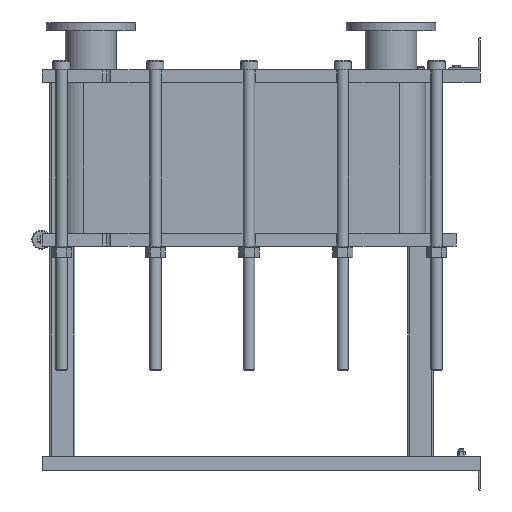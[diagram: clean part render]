
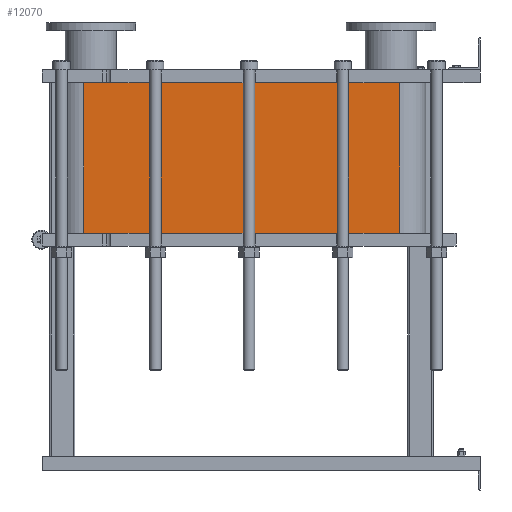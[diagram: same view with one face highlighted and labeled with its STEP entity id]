
A CAD part, left-side view. The second image highlights one B-rep face of the part: STEP entity #12070.
In plain terms, the highlighted planar face has unit normal (-1, 0, 0).
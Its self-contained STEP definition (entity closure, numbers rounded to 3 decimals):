
#1064=LINE('',#21140,#2164);
#1065=LINE('',#21144,#2165);
#1066=LINE('',#21146,#2166);
#1067=LINE('',#21147,#2167);
#2164=VECTOR('',#15790,10.);
#2165=VECTOR('',#15795,10.);
#2166=VECTOR('',#15796,10.);
#2167=VECTOR('',#15797,10.);
#3304=FACE_OUTER_BOUND('',#4091,.T.);
#4091=EDGE_LOOP('',(#9793,#9794,#9795,#9796));
#5677=VERTEX_POINT('',#21137);
#5678=VERTEX_POINT('',#21139);
#5679=VERTEX_POINT('',#21143);
#5680=VERTEX_POINT('',#21145);
#7118=EDGE_CURVE('',#5678,#5677,#1064,.T.);
#7120=EDGE_CURVE('',#5677,#5679,#1065,.T.);
#7121=EDGE_CURVE('',#5680,#5679,#1066,.T.);
#7122=EDGE_CURVE('',#5680,#5678,#1067,.T.);
#9793=ORIENTED_EDGE('',*,*,#7120,.T.);
#9794=ORIENTED_EDGE('',*,*,#7121,.F.);
#9795=ORIENTED_EDGE('',*,*,#7122,.T.);
#9796=ORIENTED_EDGE('',*,*,#7118,.T.);
#11441=PLANE('',#13191);
#12070=ADVANCED_FACE('',(#3304),#11441,.T.);
#13191=AXIS2_PLACEMENT_3D('',#21142,#15793,#15794);
#15790=DIRECTION('',(0.,0.,-1.));
#15793=DIRECTION('center_axis',(-1.,0.,0.));
#15794=DIRECTION('ref_axis',(0.,1.,0.));
#15795=DIRECTION('',(0.,-1.,0.));
#15796=DIRECTION('',(0.,0.,-1.));
#15797=DIRECTION('',(0.,1.,0.));
#21137=CARTESIAN_POINT('',(-248.152,1243.818,-472.65));
#21139=CARTESIAN_POINT('',(-248.152,1243.818,0.));
#21140=CARTESIAN_POINT('',(-248.152,1243.818,0.));
#21142=CARTESIAN_POINT('Origin',(-248.152,251.818,0.));
#21143=CARTESIAN_POINT('',(-248.152,251.818,-472.65));
#21144=CARTESIAN_POINT('',(-248.152,499.818,-472.65));
#21145=CARTESIAN_POINT('',(-248.152,251.818,0.));
#21146=CARTESIAN_POINT('',(-248.152,251.818,0.));
#21147=CARTESIAN_POINT('',(-248.152,251.818,0.));
